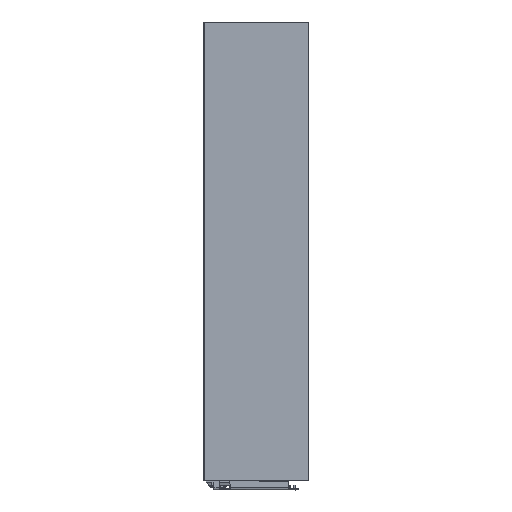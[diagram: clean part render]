
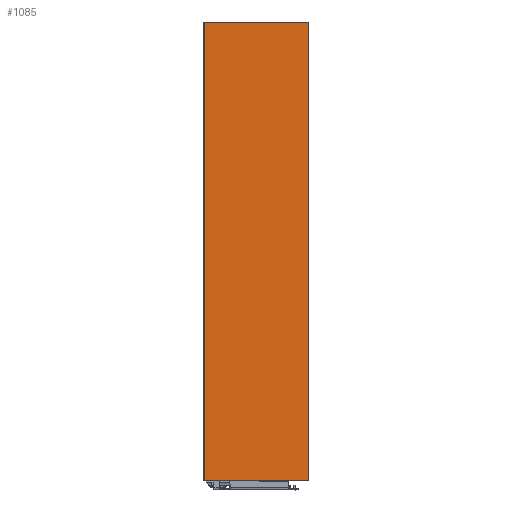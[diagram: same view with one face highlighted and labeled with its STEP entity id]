
A CAD part, left-side view. The second image highlights one B-rep face of the part: STEP entity #1085.
In plain terms, the highlighted planar face has unit normal (-1, 0, 0).
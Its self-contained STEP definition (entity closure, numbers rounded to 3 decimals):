
#55 = CARTESIAN_POINT ( 'NONE',  ( 2.5, -29., -390. ) ) ;
#133 = DIRECTION ( 'NONE',  ( 1., 0., 0. ) ) ;
#147 = DIRECTION ( 'NONE',  ( 0., 0., -1. ) ) ;
#179 = DIRECTION ( 'NONE',  ( 0., -1., 0. ) ) ;
#297 = ORIENTED_EDGE ( 'NONE', *, *, #2752, .T. ) ;
#354 = CARTESIAN_POINT ( 'NONE',  ( 2.5, 59.5, -390. ) ) ;
#496 = CARTESIAN_POINT ( 'NONE',  ( 2.5, -29., 0. ) ) ;
#565 = ORIENTED_EDGE ( 'NONE', *, *, #1593, .T. ) ;
#584 = CARTESIAN_POINT ( 'NONE',  ( 2.5, -29., 0. ) ) ;
#923 = ORIENTED_EDGE ( 'NONE', *, *, #2589, .T. ) ;
#933 = FACE_OUTER_BOUND ( 'NONE', #2650, .T. ) ;
#993 = VECTOR ( 'NONE', #1245, 1000. ) ;
#1022 = LINE ( 'NONE', #3006, #1196 ) ;
#1085 = ADVANCED_FACE ( 'NONE', ( #933 ), #3061, .F. ) ;
#1196 = VECTOR ( 'NONE', #1774, 1000. ) ;
#1198 = CARTESIAN_POINT ( 'NONE',  ( 2.5, -29., 0. ) ) ;
#1245 = DIRECTION ( 'NONE',  ( 0., 1., 0. ) ) ;
#1593 = EDGE_CURVE ( 'NONE', #2663, #2446, #2221, .T. ) ;
#1714 = CARTESIAN_POINT ( 'NONE',  ( 2.5, 59.5, 0. ) ) ;
#1774 = DIRECTION ( 'NONE',  ( 0., -1., 0. ) ) ;
#1835 = LINE ( 'NONE', #2316, #2514 ) ;
#1980 = EDGE_CURVE ( 'NONE', #2663, #3162, #2604, .T. ) ;
#2221 = LINE ( 'NONE', #3119, #993 ) ;
#2312 = DIRECTION ( 'NONE',  ( 0., 0., -1. ) ) ;
#2316 = CARTESIAN_POINT ( 'NONE',  ( 2.5, 59.5, 0. ) ) ;
#2320 = VERTEX_POINT ( 'NONE', #354 ) ;
#2446 = VERTEX_POINT ( 'NONE', #1714 ) ;
#2514 = VECTOR ( 'NONE', #147, 1000. ) ;
#2589 = EDGE_CURVE ( 'NONE', #2320, #3162, #1022, .T. ) ;
#2604 = LINE ( 'NONE', #1198, #3024 ) ;
#2650 = EDGE_LOOP ( 'NONE', ( #2698, #565, #297, #923 ) ) ;
#2663 = VERTEX_POINT ( 'NONE', #584 ) ;
#2698 = ORIENTED_EDGE ( 'NONE', *, *, #1980, .F. ) ;
#2700 = AXIS2_PLACEMENT_3D ( 'NONE', #496, #133, #179 ) ;
#2752 = EDGE_CURVE ( 'NONE', #2446, #2320, #1835, .T. ) ;
#3006 = CARTESIAN_POINT ( 'NONE',  ( 2.5, 59.9, -390. ) ) ;
#3024 = VECTOR ( 'NONE', #2312, 1000. ) ;
#3061 = PLANE ( 'NONE',  #2700 ) ;
#3119 = CARTESIAN_POINT ( 'NONE',  ( 2.5, -29., 0. ) ) ;
#3162 = VERTEX_POINT ( 'NONE', #55 ) ;
